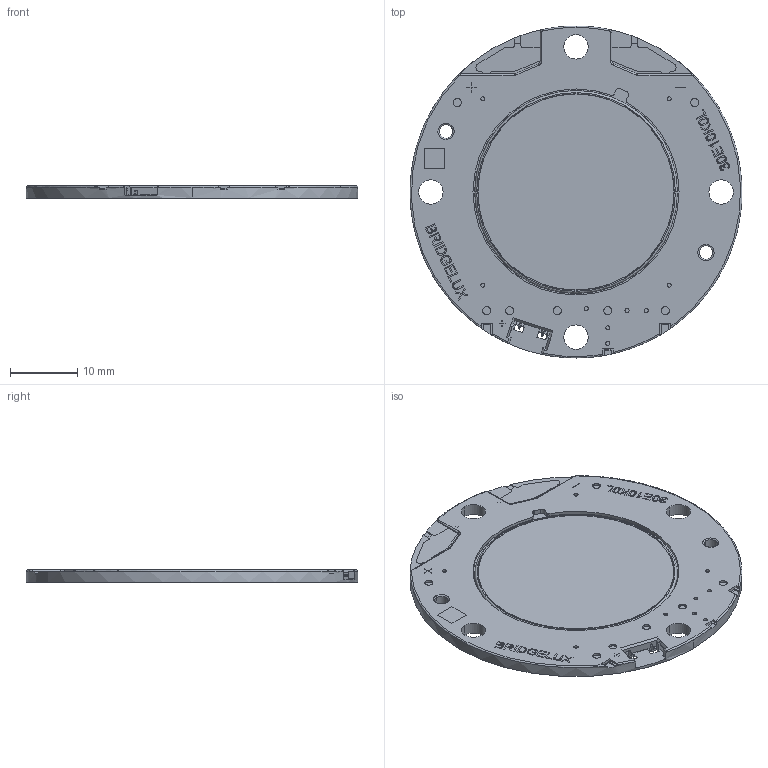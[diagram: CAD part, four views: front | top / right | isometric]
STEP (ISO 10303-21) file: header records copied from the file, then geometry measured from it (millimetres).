
FILE_DESCRIPTION (( 'STEP AP214' ), '1' );
FILE_NAME ('GEN8 Vero29.STEP', '2020-09-12T08:22:22', ( '' ), ( '' ), 'SwSTEP 2.0', 'SolidWorks 2018', '' );
FILE_SCHEMA (( 'AUTOMOTIVE_DESIGN' ));
Length unit declared in the file: millimetre
Products named in the file (1): GEN8 Vero29
Bounding box: 49.2 x 49.2 x 1.8 mm (x, y, z)
Volume: 2923 mm3; surface area: 4991.1 mm2
Topology: 3 solids, 9 shells, 1028 faces, 2765 edges, 1796 vertices
Faces by surface type: plane 513, cylinder 352, bspline 132, cone 25, torus 6
Entity records: 49607 total; most frequent: CARTESIAN_POINT 12734, ORIENTED_EDGE 5512, DIRECTION 5049, EDGE_CURVE 2756, VERTEX_POINT 1796, AXIS2_PLACEMENT_3D 1690, LINE 1669, VECTOR 1669
